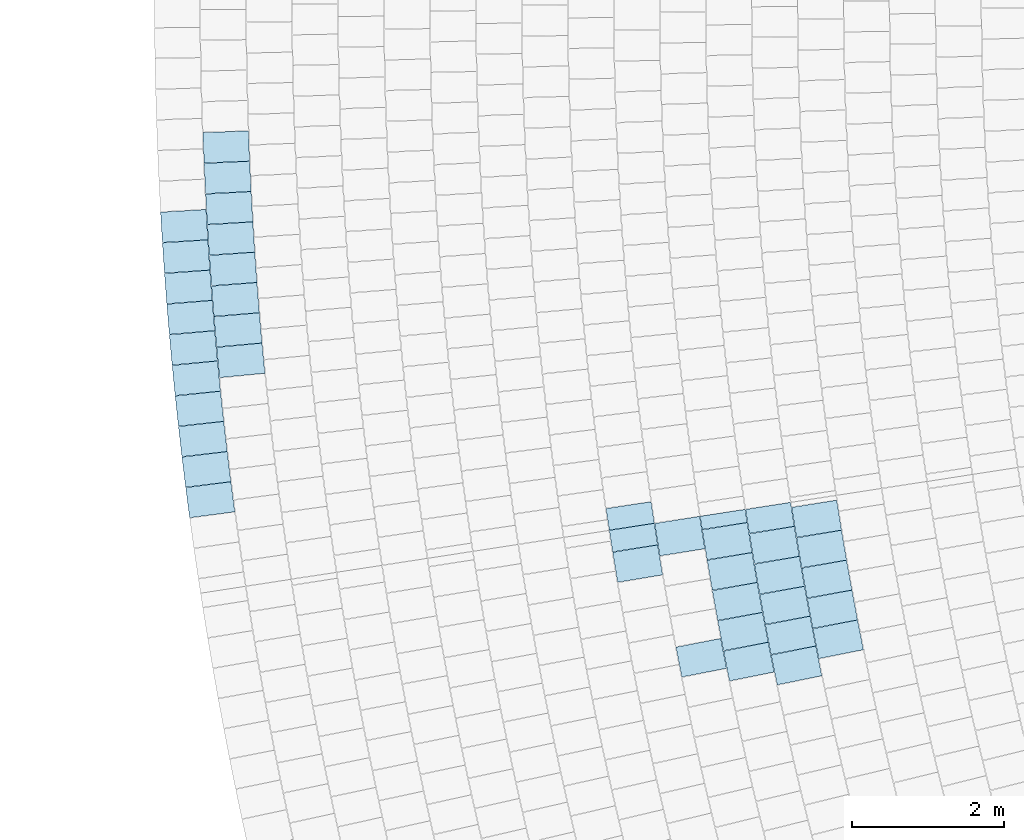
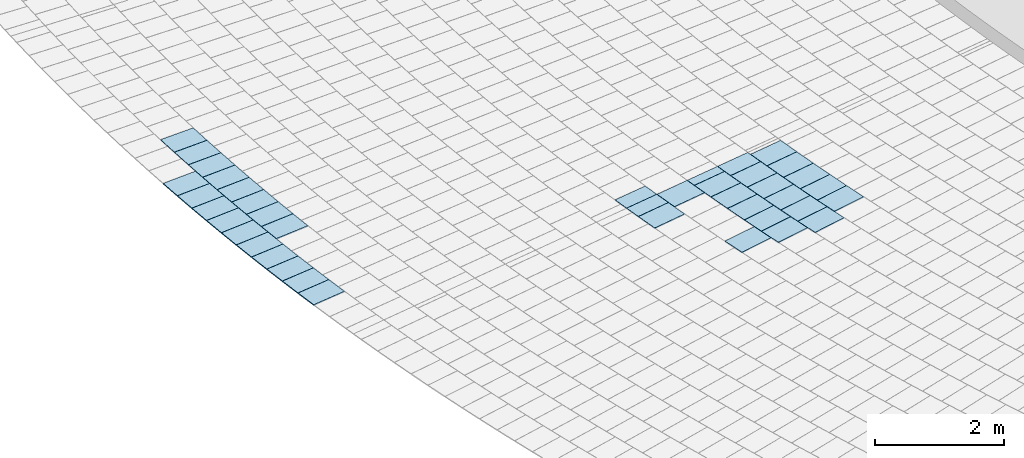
# One storey, part 77 of 438: 40 slabs.
"""IFC2X3 building model written with IfcOpenShell, lengths in millimetres."""

from ifc_helpers import new_model, entity, si_unit, converted_unit, derived_unit, direction, frame, frame_2d, origin, place, context, subcontext, project, spatial, polyline, rectangle, outline, extrude, material, layer, layer_set, layer_usage, type_object, element, save


model = new_model("IFC2X3")

# Units and contexts
model_context = context("Model", 3, precision=0.01, world=origin(), true_north=direction((6.123031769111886e-17, 1.0)))
body_context = subcontext(model_context, "Body", "Model", "MODEL_VIEW")
ifc_project = project(units=[si_unit("LENGTHUNIT", "METRE", prefix="MILLI"), si_unit("AREAUNIT", "SQUARE_METRE"), si_unit("VOLUMEUNIT", "CUBIC_METRE"), converted_unit("PLANEANGLEUNIT", "DEGREE", entity("IfcRatioMeasure", 0.017453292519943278), si_unit("PLANEANGLEUNIT", "RADIAN"), dimensions=[0, 0, 0, 0, 0, 0, 0]), si_unit("MASSUNIT", "GRAM", prefix="KILO"), derived_unit("MASSDENSITYUNIT", [(si_unit("MASSUNIT", "GRAM", prefix="KILO"), 1), (si_unit("LENGTHUNIT", "METRE"), -3)]), derived_unit("MOMENTOFINERTIAUNIT", [(si_unit("LENGTHUNIT", "METRE"), 4)]), si_unit("TIMEUNIT", "SECOND"), si_unit("FREQUENCYUNIT", "HERTZ"), si_unit("THERMODYNAMICTEMPERATUREUNIT", "DEGREE_CELSIUS"), derived_unit("THERMALTRANSMITTANCEUNIT", [(si_unit("MASSUNIT", "GRAM", prefix="KILO"), 1), (si_unit("THERMODYNAMICTEMPERATUREUNIT", "KELVIN"), -1), (si_unit("TIMEUNIT", "SECOND"), -3)]), derived_unit("THERMALCONDUCTANCEUNIT", [(si_unit("MASSUNIT", "GRAM", prefix="KILO"), 1), (si_unit("LENGTHUNIT", "METRE"), 1), (si_unit("THERMODYNAMICTEMPERATUREUNIT", "KELVIN"), -1), (si_unit("TIMEUNIT", "SECOND"), -3)]), derived_unit("VOLUMETRICFLOWRATEUNIT", [(si_unit("LENGTHUNIT", "METRE"), 3), (si_unit("TIMEUNIT", "SECOND"), -1)]), derived_unit("MASSFLOWRATEUNIT", [(si_unit("MASSUNIT", "GRAM", prefix="KILO"), 1), (si_unit("TIMEUNIT", "SECOND"), -1)]), derived_unit("ROTATIONALFREQUENCYUNIT", [(si_unit("TIMEUNIT", "SECOND"), -1)]), si_unit("ELECTRICCURRENTUNIT", "AMPERE"), si_unit("ELECTRICVOLTAGEUNIT", "VOLT"), si_unit("POWERUNIT", "WATT"), converted_unit("FORCEUNIT", "KIP", entity("IfcRatioMeasure", 2.088543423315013e-05), si_unit("FORCEUNIT", "NEWTON"), dimensions=[1, 1, -2, 0, 0, 0, 0]), si_unit("ILLUMINANCEUNIT", "LUX"), si_unit("LUMINOUSFLUXUNIT", "LUMEN"), si_unit("LUMINOUSINTENSITYUNIT", "CANDELA"), derived_unit("USERDEFINED", [(si_unit("MASSUNIT", "GRAM", prefix="KILO"), -1), (si_unit("LENGTHUNIT", "METRE"), -2), (si_unit("TIMEUNIT", "SECOND"), 3), (si_unit("LUMINOUSFLUXUNIT", "LUMEN"), 1)]), derived_unit("USERDEFINED", [(si_unit("MASSUNIT", "GRAM", prefix="KILO"), 1), (si_unit("LENGTHUNIT", "METRE"), 3), (si_unit("TIMEUNIT", "SECOND"), -3), (si_unit("ELECTRICCURRENTUNIT", "AMPERE"), -2)]), derived_unit("USERDEFINED", [(si_unit("LENGTHUNIT", "METRE"), 2), (si_unit("TIMEUNIT", "SECOND"), -2)]), derived_unit("SOUNDPOWERUNIT", [(si_unit("MASSUNIT", "GRAM", prefix="KILO"), 1), (si_unit("LENGTHUNIT", "METRE"), 2), (si_unit("TIMEUNIT", "SECOND"), -3)]), derived_unit("SOUNDPRESSUREUNIT", [(si_unit("MASSUNIT", "GRAM", prefix="KILO"), 1), (si_unit("LENGTHUNIT", "METRE"), -1), (si_unit("TIMEUNIT", "SECOND"), -2)]), derived_unit("LINEARVELOCITYUNIT", [(si_unit("LENGTHUNIT", "METRE"), 1), (si_unit("TIMEUNIT", "SECOND"), -1)]), si_unit("PRESSUREUNIT", "PASCAL"), derived_unit("USERDEFINED", [(si_unit("LENGTHUNIT", "METRE"), -2), (si_unit("MASSUNIT", "GRAM", prefix="KILO"), 1), (si_unit("TIMEUNIT", "SECOND"), -2)]), derived_unit("LINEARFORCEUNIT", [(si_unit("MASSUNIT", "GRAM", prefix="KILO"), 1), (si_unit("LENGTHUNIT", "METRE"), 1), (si_unit("TIMEUNIT", "SECOND"), -2), (si_unit("LENGTHUNIT", "METRE"), -1)]), derived_unit("PLANARFORCEUNIT", [(si_unit("MASSUNIT", "GRAM", prefix="KILO"), 1), (si_unit("LENGTHUNIT", "METRE"), 1), (si_unit("TIMEUNIT", "SECOND"), -2), (si_unit("LENGTHUNIT", "METRE"), -2)]), derived_unit("SPECIFICHEATCAPACITYUNIT", [(si_unit("LENGTHUNIT", "METRE"), 2), (si_unit("TIMEUNIT", "SECOND"), -2), (si_unit("THERMODYNAMICTEMPERATUREUNIT", "KELVIN"), -1)]), derived_unit("VAPORPERMEABILITYUNIT", [(si_unit("TIMEUNIT", "SECOND"), 1), (si_unit("LENGTHUNIT", "METRE"), -1)]), derived_unit("DYNAMICVISCOSITYUNIT", [(si_unit("MASSUNIT", "GRAM", prefix="KILO"), 1), (si_unit("LENGTHUNIT", "METRE"), -1), (si_unit("TIMEUNIT", "SECOND"), -1)]), derived_unit("THERMALEXPANSIONCOEFFICIENTUNIT", [(si_unit("THERMODYNAMICTEMPERATUREUNIT", "KELVIN"), -1)])], contexts=[model_context])

# Site, building, storey
site_placement = place(None, frame((0.0, 0.0, 0.0), z_axis=(0.0, 0.0, 1.0), x_axis=(0.8191520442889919, 0.5735764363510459, 0.0)))
site = spatial("IfcSite", under=ifc_project, at=site_placement, Name="Default", CompositionType="ELEMENT")
building_placement = place(site_placement, origin())
building = spatial("IfcBuilding", under=site, at=building_placement, CompositionType="ELEMENT")
storey_placement = place(building_placement, origin())
storey = spatial("IfcBuildingStorey", under=building, at=storey_placement, Name="PLAN", CompositionType="ELEMENT", Elevation=0.0)

# Slabs
ifc_material = material(Name="Paint-01")
ifc_layer = layer(ifc_material, 20.00000000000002)
ifc_layer_set = layer_set([ifc_layer], Name="Floor:Slab-179:1000")
ifc_layer_usage = layer_usage(ifc_layer_set, "AXIS3", "POSITIVE", 0.0)
slab_type = type_object("IfcSlabType", Name="Floor:Slab-179:1000", PredefinedType="FLOOR", material=ifc_layer_set)
slab_1_placement = place(storey_placement, origin())
element("IfcSlab", 1, at=slab_1_placement, inside=storey, type_object=slab_type, material=ifc_layer_usage, Name="Floor:Slab-179:1000", ObjectType="Floor:Slab-179:1000", PredefinedType="FLOOR", context=body_context, shape_type="SweptSolid", body=[
    extrude(outline(polyline([(-299.99999762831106, -200.00000294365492), (300.0, -200.00000294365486), (299.9999976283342, 200.0000029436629), (-300.0, 200.00000294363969), (-299.99999762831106, -200.00000294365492)])), frame((-80147.17707333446, -48590.86909837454, 520.0), z_axis=(0.0, 0.0, -1.0), x_axis=(0.8993916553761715, -0.43714374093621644, 0.0)), (0.0, 0.0, 1.0), 20.000000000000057),
])
slab_2_placement = place(storey_placement, origin())
element("IfcSlab", 2, at=slab_2_placement, inside=storey, type_object=slab_type, material=ifc_layer_usage, Name="Floor:Slab-179:1000", ObjectType="Floor:Slab-179:1000", PredefinedType="FLOOR", context=body_context, shape_type="SweptSolid", body=[
    extrude(outline(polyline([(-299.99999762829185, -200.0000029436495), (300.0, -200.0000029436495), (299.99999762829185, 200.0000029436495), (-300.0, 200.0000029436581), (-299.99999762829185, -200.0000029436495)])), frame((-80321.57655871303, -48953.87285234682, 520.0), z_axis=(0.0, 0.0, -1.0), x_axis=(0.9033302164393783, -0.42894582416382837, 0.0)), (0.0, 0.0, 1.0), 20.000000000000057),
])
slab_3_placement = place(storey_placement, origin())
element("IfcSlab", 3, at=slab_3_placement, inside=storey, type_object=slab_type, material=ifc_layer_usage, Name="Floor:Slab-179:1000", ObjectType="Floor:Slab-179:1000", PredefinedType="FLOOR", context=body_context, shape_type="SweptSolid", body=[
    extrude(outline(polyline([(-299.99999762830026, -200.0000029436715), (300.0, -200.0000029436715), (299.9999976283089, 200.0000029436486), (-300.0, 200.00000294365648), (-299.99999762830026, -200.0000029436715)])), frame((-80660.43533837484, -49684.56357710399, 520.0), z_axis=(0.0, 0.0, -1.0), x_axis=(0.9109828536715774, -0.41244422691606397, 0.0)), (0.0, 0.0, 1.0), 20.000000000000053),
])
slab_4_placement = place(storey_placement, origin())
element("IfcSlab", 4, at=slab_4_placement, inside=storey, type_object=slab_type, material=ifc_layer_usage, Name="Floor:Slab-179:1000", ObjectType="Floor:Slab-179:1000", PredefinedType="FLOOR", context=body_context, shape_type="SweptSolid", body=[
    extrude(outline(polyline([(-200.00000453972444, -299.99999869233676), (200.00000134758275, -299.99999869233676), (200.00000453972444, 299.99999869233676), (-200.00000134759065, 299.9999986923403), (-200.00000453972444, -299.99999869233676)])), frame((-80824.86660290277, -50052.19010653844, 520.0), z_axis=(0.0, 0.0, -1.0), x_axis=(-0.4041419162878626, -0.9146962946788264, 0.0)), (0.0, 0.0, 1.0), 20.000000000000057),
])
slab_5_placement = place(storey_placement, origin())
element("IfcSlab", 5, at=slab_5_placement, inside=storey, type_object=slab_type, material=ifc_layer_usage, Name="Floor:Slab-179:1000", ObjectType="Floor:Slab-179:1000", PredefinedType="FLOOR", context=body_context, shape_type="SweptSolid", body=[
    extrude(outline(polyline([(-299.99999762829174, -200.0000029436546), (300.0, -200.00000294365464), (299.999997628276, 200.00000294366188), (-300.0, 200.00000294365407), (-299.99999762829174, -200.0000029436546)])), frame((-80492.6673644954, -49318.44773090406, 520.0), z_axis=(0.0, 0.0, -1.0), x_axis=(0.9071940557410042, -0.42071242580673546, 0.0)), (0.0, 0.0, 1.0), 19.999999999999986),
])
slab_6_placement = place(storey_placement, origin())
element("IfcSlab", 6, at=slab_6_placement, inside=storey, type_object=slab_type, material=ifc_layer_usage, Name="Floor:Slab-179:1000", ObjectType="Floor:Slab-179:1000", PredefinedType="FLOOR", context=body_context, shape_type="SweptSolid", body=[
    extrude(outline(polyline([(-299.99999762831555, -200.00000294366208), (300.0, -200.00000294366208), (299.9999976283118, 200.00000294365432), (-300.0, 200.0000029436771), (-299.99999762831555, -200.00000294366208)])), frame((-80801.68309702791, -48555.12744006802, 520.0), z_axis=(0.0, 0.0, -1.0), x_axis=(0.9018506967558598, -0.4320478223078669, 0.0)), (0.0, 0.0, 1.0), 20.000000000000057),
])
slab_7_placement = place(storey_placement, origin())
element("IfcSlab", 7, at=slab_7_placement, inside=storey, type_object=slab_type, material=ifc_layer_usage, Name="Floor:Slab-179:1000", ObjectType="Floor:Slab-179:1000", PredefinedType="FLOOR", context=body_context, shape_type="SweptSolid", body=[
    extrude(outline(polyline([(-299.99999762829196, -200.0000029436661), (300.0, -200.0000029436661), (299.999997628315, 200.00000294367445), (-300.0, 200.00000294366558), (-299.99999762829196, -200.0000029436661)])), frame((-80974.03251129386, -48919.06817122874, 520.0), z_axis=(0.0, 0.0, -1.0), x_axis=(0.9056904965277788, -0.4239395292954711, 0.0)), (0.0, 0.0, 1.0), 20.000000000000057),
])
slab_8_placement = place(storey_placement, origin())
element("IfcSlab", 8, at=slab_8_placement, inside=storey, type_object=slab_type, material=ifc_layer_usage, Name="Floor:Slab-179:1000", ObjectType="Floor:Slab-179:1000", PredefinedType="FLOOR", context=body_context, shape_type="SweptSolid", body=[
    extrude(outline(polyline([(-299.99999762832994, -200.00000294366), (300.0, -200.00000294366), (299.9999976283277, 200.00000294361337), (-300.0, 200.00000294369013), (-299.99999762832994, -200.00000294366)])), frame((-81143.10991456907, -49284.54047947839, 520.0), z_axis=(0.0, 0.0, -1.0), x_axis=(0.9094573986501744, -0.41579711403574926, 0.0)), (0.0, 0.0, 1.0), 19.999999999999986),
])
slab_9_placement = place(storey_placement, origin())
element("IfcSlab", 9, at=slab_9_placement, inside=storey, type_object=slab_type, material=ifc_layer_usage, Name="Floor:Slab-179:1000", ObjectType="Floor:Slab-179:1000", PredefinedType="FLOOR", context=body_context, shape_type="SweptSolid", body=[
    extrude(outline(polyline([(-299.9999978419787, -159.83571271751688), (300.0, -159.8357127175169), (299.9999978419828, 159.83571271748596), (-300.0, 159.83571271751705), (-299.9999978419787, -159.83571271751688)])), frame((-80643.75270535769, -48228.81263376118, 520.0), z_axis=(0.0, 0.0, -1.0), x_axis=(0.8979383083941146, -0.4401213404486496, 0.0)), (0.0, 0.0, 1.0), 19.999999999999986),
])
slab_10_placement = place(storey_placement, origin())
element("IfcSlab", 10, at=slab_10_placement, inside=storey, type_object=slab_type, material=ifc_layer_usage, Name="Floor:Slab-179:1000", ObjectType="Floor:Slab-179:1000", PredefinedType="FLOOR", context=body_context, shape_type="SweptSolid", body=[
    extrude(outline(polyline([(-200.00000453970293, -299.99999869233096), (200.00000134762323, -299.99999869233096), (200.0000045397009, 299.9999986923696), (-200.0000013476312, 299.99999869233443), (-200.00000453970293, -299.99999869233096)])), frame((-81471.39451747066, -50019.96204109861, 520.0), z_axis=(0.0, 0.0, -1.0), x_axis=(-0.3994125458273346, -0.9167713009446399, 0.0)), (0.0, 0.0, 1.0), 20.000000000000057),
])
slab_11_placement = place(storey_placement, origin())
element("IfcSlab", 11, at=slab_11_placement, inside=storey, type_object=slab_type, material=ifc_layer_usage, Name="Floor:Slab-179:1000", ObjectType="Floor:Slab-179:1000", PredefinedType="FLOOR", context=body_context, shape_type="SweptSolid", body=[
    extrude(outline(polyline([(-200.00000453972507, -299.9999986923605), (200.000001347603, -299.99999869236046), (200.00000453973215, 299.9999986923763), (-200.00000134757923, 299.9999986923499), (-200.00000453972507, -299.9999986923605)])), frame((-81308.9016980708, -49651.51494850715, 520.0), z_axis=(0.0, 0.0, -1.0), x_axis=(-0.407621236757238, -0.9131510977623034, 0.0)), (0.0, 0.0, 1.0), 20.000000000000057),
])
slab_12_placement = place(storey_placement, origin())
element("IfcSlab", 12, at=slab_12_placement, inside=storey, type_object=slab_type, material=ifc_layer_usage, Name="Floor:Slab-179:1000", ObjectType="Floor:Slab-179:1000", PredefinedType="FLOOR", context=body_context, shape_type="SweptSolid", body=[
    extrude(outline(polyline([(-299.99999762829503, -200.0000029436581), (300.0, -200.0000029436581), (299.9999976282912, 200.0000029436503), (-300.0, 200.00000294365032), (-299.99999762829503, -200.0000029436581)])), frame((-81281.33621629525, -48156.62978566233, 520.0), z_axis=(0.0, 0.0, -1.0), x_axis=(0.9004005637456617, -0.43506186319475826, 0.0)), (0.0, 0.0, 1.0), 20.000000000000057),
])
slab_13_placement = place(storey_placement, origin())
element("IfcSlab", 13, at=slab_13_placement, inside=storey, type_object=slab_type, material=ifc_layer_usage, Name="Floor:Slab-179:1000", ObjectType="Floor:Slab-179:1000", PredefinedType="FLOOR", context=body_context, shape_type="SweptSolid", body=[
    extrude(outline(polyline([(-299.9999982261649, -87.62463906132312), (299.9999991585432, -87.62463906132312), (299.9999982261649, 87.62463906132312), (-299.9999991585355, 87.62463906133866), (-299.9999982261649, -87.62463906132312)])), frame((-81154.33900314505, -47895.6071059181, 520.0), z_axis=(0.0, 0.0, -1.0), x_axis=(0.8965144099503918, -0.44301457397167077, 0.0)), (0.0, 0.0, 1.0), 20.000000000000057),
])
slab_14_placement = place(storey_placement, origin())
element("IfcSlab", 14, at=slab_14_placement, inside=storey, type_object=slab_type, material=ifc_layer_usage, Name="Floor:Slab-179:1000", ObjectType="Floor:Slab-179:1000", PredefinedType="FLOOR", context=body_context, shape_type="SweptSolid", body=[
    extrude(outline(polyline([(-299.9999976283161, -200.00000294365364), (300.0, -200.0000029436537), (299.99999762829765, 200.00000294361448), (-300.0, 200.00000294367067), (-299.9999976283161, -200.00000294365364)])), frame((-81454.90828903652, -48519.94917670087, 520.0), z_axis=(0.0, 0.0, -1.0), x_axis=(0.9042161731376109, -0.4270750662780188, 0.0)), (0.0, 0.0, 1.0), 19.999999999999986),
])
slab_15_placement = place(storey_placement, origin())
element("IfcSlab", 15, at=slab_15_placement, inside=storey, type_object=slab_type, material=ifc_layer_usage, Name="Floor:Slab-179:1000", ObjectType="Floor:Slab-179:1000", PredefinedType="FLOOR", context=body_context, shape_type="SweptSolid", body=[
    extrude(outline(polyline([(-299.9999976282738, -200.000002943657), (300.0, -200.00000294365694), (299.9999976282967, 200.0000029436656), (-300.0, 200.0000029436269), (-299.9999976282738, -200.000002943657)])), frame((-81792.37109634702, -49251.12571396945, 520.0), z_axis=(0.0, 0.0, -1.0), x_axis=(0.9116345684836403, -0.4110017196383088, 0.0)), (0.0, 0.0, 1.0), 20.000000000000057),
])
slab_16_placement = place(storey_placement, origin())
element("IfcSlab", 16, at=slab_16_placement, inside=storey, type_object=slab_type, material=ifc_layer_usage, Name="Floor:Slab-179:1000", ObjectType="Floor:Slab-179:1000", PredefinedType="FLOOR", context=body_context, shape_type="SweptSolid", body=[
    extrude(outline(polyline([(-200.0000045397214, -299.9999986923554), (200.00000134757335, -299.99999869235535), (200.00000453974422, 299.9999986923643), (-200.00000134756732, 299.9999986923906), (-200.0000045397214, -299.9999986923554)])), frame((-81956.2353914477, -49618.92557412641, 520.0), z_axis=(0.0, 0.0, -1.0), x_axis=(-0.40291643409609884, -0.9152367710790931, 0.0)), (0.0, 0.0, 1.0), 20.000000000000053),
])
slab_17_placement = place(storey_placement, origin())
element("IfcSlab", 17, at=slab_17_placement, inside=storey, type_object=slab_type, material=ifc_layer_usage, Name="Floor:Slab-179:1000", ObjectType="Floor:Slab-179:1000", PredefinedType="FLOOR", context=body_context, shape_type="SweptSolid", body=[
    extrude(outline(polyline([(-215.737726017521, -299.9999986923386), (215.73772282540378, -299.9999986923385), (215.73772601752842, 299.9999986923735), (-215.73772282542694, 299.99999869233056), (-215.737726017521, -299.9999986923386)])), frame((-81753.66173906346, -47744.22363161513, 520.0), z_axis=(0.0, 0.0, -1.0), x_axis=(-0.437991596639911, -0.8989790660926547, 0.0)), (0.0, 0.0, 1.0), 20.000000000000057),
])
slab_18_placement = place(storey_placement, origin())
element("IfcSlab", 18, at=slab_18_placement, inside=storey, type_object=slab_type, material=ifc_layer_usage, Name="Floor:Slab-179:1000", ObjectType="Floor:Slab-179:1000", PredefinedType="FLOOR", context=body_context, shape_type="SweptSolid", body=[
    extrude(outline(polyline([(-200.0000045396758, -299.9999986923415), (200.00000134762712, -299.9999986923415), (200.000004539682, 299.99999869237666), (-200.00000134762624, 299.99999869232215), (-200.0000045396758, -299.9999986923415)])), frame((-82440.4953566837, -49218.17789218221, 520.0), z_axis=(0.0, 0.0, -1.0), x_axis=(-0.40632207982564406, -0.9137299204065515, 0.0)), (0.0, 0.0, 1.0), 20.000000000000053),
])
slab_19_placement = place(storey_placement, origin())
element("IfcSlab", 19, at=slab_19_placement, inside=storey, type_object=slab_type, material=ifc_layer_usage, Name="Floor:Slab-179:1000", ObjectType="Floor:Slab-179:1000", PredefinedType="FLOOR", context=body_context, shape_type="SweptSolid", body=[
    extrude(outline(polyline([(-143.68801425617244, -299.99999869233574), (143.68801266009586, -299.9999986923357), (143.68801585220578, 299.99999869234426), (-143.6880142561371, 299.9999986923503), (-143.68801425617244, -299.99999869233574)])), frame((-82264.18102377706, -47410.88941931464, 520.0), z_axis=(0.0, 0.0, -1.0), x_axis=(-0.4408404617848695, -0.8975854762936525, 0.0)), (0.0, 0.0, 1.0), 19.99999999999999),
])
slab_20_placement = place(storey_placement, origin())
element("IfcSlab", 20, at=slab_20_placement, inside=storey, type_object=slab_type, material=ifc_layer_usage, Name="Floor:Slab-179:1000", ObjectType="Floor:Slab-179:1000", PredefinedType="FLOOR", context=body_context, shape_type="SweptSolid", body=[
    extrude(outline(polyline([(-299.99999762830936, -200.00000294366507), (300.0, -200.0000029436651), (299.9999976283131, 200.00000294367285), (-300.0, 200.0000029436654), (-299.99999762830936, -200.00000294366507)])), frame((-82415.27187686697, -47722.45839020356, 520.0), z_axis=(0.0, 0.0, -1.0), x_axis=(0.9013524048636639, -0.4330864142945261, 0.0)), (0.0, 0.0, 1.0), 20.000000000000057),
])
slab_21_placement = place(storey_placement, origin())
element("IfcSlab", 21, at=slab_21_placement, inside=storey, type_object=slab_type, material=ifc_layer_usage, Name="Floor:Slab-179:1000", ObjectType="Floor:Slab-179:1000", PredefinedType="FLOOR", context=body_context, shape_type="SweptSolid", body=[
    extrude(outline(polyline([(-299.9999976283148, -200.0000029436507), (300.0, -200.0000029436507), (299.99999762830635, 200.0000029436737), (-300.0, 200.000002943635), (-299.9999976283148, -200.0000029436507)])), frame((-81625.2576978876, -48884.79068097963, 520.0), z_axis=(0.0, 0.0, -1.0), x_axis=(0.9079609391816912, -0.41905480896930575, 0.0)), (0.0, 0.0, 1.0), 20.000000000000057),
])
slab_22_placement = place(storey_placement, origin())
element("IfcSlab", 22, at=slab_22_placement, inside=storey, type_object=slab_type, material=ifc_layer_usage, Name="Floor:Slab-179:1000", ObjectType="Floor:Slab-179:1000", PredefinedType="FLOOR", context=body_context, shape_type="SweptSolid", body=[
    extrude(outline(polyline([(-300.0, -143.6880142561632), (299.9999979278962, -143.6880142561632), (300.0, 143.688012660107), (-299.99999792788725, 143.68801585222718), (-300.0, -143.6880142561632)])), frame((-82136.5087608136, -47152.17114245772, 520.0), z_axis=(0.0, 0.0, -1.0), x_axis=(0.8959188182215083, -0.4442178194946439, 0.0)), (0.0, 0.0, 1.0), 20.000000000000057),
])
slab_23_placement = place(storey_placement, origin())
element("IfcSlab", 23, at=slab_23_placement, inside=storey, type_object=slab_type, material=ifc_layer_usage, Name="Floor:Slab-179:1000", ObjectType="Floor:Slab-179:1000", PredefinedType="FLOOR", context=body_context, shape_type="SweptSolid", body=[
    extrude(outline(polyline([(-300.0, -200.00000294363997), (299.99999762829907, -200.0000029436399), (300.0, 200.00000294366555), (-299.99999762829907, 200.0000029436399), (-300.0, -200.00000294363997)])), frame((-84134.8312146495, -40803.21223893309, 520.0), z_axis=(0.0, 0.0, -1.0), x_axis=(0.8500721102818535, -0.5266663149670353, 0.0)), (0.0, 0.0, 1.0), 20.000000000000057),
])
slab_24_placement = place(storey_placement, origin())
element("IfcSlab", 24, at=slab_24_placement, inside=storey, type_object=slab_type, material=ifc_layer_usage, Name="Floor:Slab-179:1000", ObjectType="Floor:Slab-179:1000", PredefinedType="FLOOR", context=body_context, shape_type="SweptSolid", body=[
    extrude(outline(polyline([(-300.0, -200.00000294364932), (299.9999976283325, -200.00000294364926), (300.0, 200.00000294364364), (-299.99999762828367, 200.00000294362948), (-300.0, -200.00000294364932)])), frame((-84755.98002708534, -40657.80421363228, 520.0), z_axis=(0.0, 0.0, -1.0), x_axis=(0.8521213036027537, -0.5233443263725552, 0.0)), (0.0, 0.0, 1.0), 19.99999999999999),
])
slab_25_placement = place(storey_placement, origin())
element("IfcSlab", 25, at=slab_25_placement, inside=storey, type_object=slab_type, material=ifc_layer_usage, Name="Floor:Slab-179:1000", ObjectType="Floor:Slab-179:1000", PredefinedType="FLOOR", context=body_context, shape_type="SweptSolid", body=[
    extrude(outline(polyline([(-300.0, -200.00000294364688), (299.9999976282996, -200.00000294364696), (300.0, 200.00000294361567), (-299.9999976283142, 200.0000029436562), (-300.0, -200.00000294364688)])), frame((-83921.59955222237, -40462.024874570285, 520.0), z_axis=(0.0, 0.0, -1.0), x_axis=(0.8459349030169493, -0.5332861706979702, 0.0)), (0.0, 0.0, 1.0), 19.999999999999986),
])
slab_26_placement = place(storey_placement, origin())
element("IfcSlab", 26, at=slab_26_placement, inside=storey, type_object=slab_type, material=ifc_layer_usage, Name="Floor:Slab-179:1000", ObjectType="Floor:Slab-179:1000", PredefinedType="FLOOR", context=body_context, shape_type="SweptSolid", body=[
    extrude(outline(polyline([(-300.0, -200.00000294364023), (299.9999976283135, -200.00000294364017), (300.0, 200.00000294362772), (-299.9999976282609, 200.00000294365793), (-300.0, -200.00000294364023)])), frame((-83705.71098192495, -40122.512452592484, 520.0), z_axis=(0.0, 0.0, -1.0), x_axis=(0.8417461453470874, -0.5398735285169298, 0.0)), (0.0, 0.0, 1.0), 20.000000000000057),
])
slab_27_placement = place(storey_placement, origin())
element("IfcSlab", 27, at=slab_27_placement, inside=storey, type_object=slab_type, material=ifc_layer_usage, Name="Floor:Slab-179:1000", ObjectType="Floor:Slab-179:1000", PredefinedType="FLOOR", context=body_context, shape_type="SweptSolid", body=[
    extrude(outline(polyline([(-299.9999976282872, -200.0000029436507), (300.0, -200.0000029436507), (299.99999762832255, 200.0000029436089), (-300.0, 200.00000294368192), (-299.9999976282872, -200.0000029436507)])), frame((-84345.39297509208, -41146.053754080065, 520.0), z_axis=(0.0, 0.0, -1.0), x_axis=(0.8541575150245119, -0.5200143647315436, 0.0)), (0.0, 0.0, 1.0), 20.000000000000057),
])
slab_28_placement = place(storey_placement, origin())
element("IfcSlab", 28, at=slab_28_placement, inside=storey, type_object=slab_type, material=ifc_layer_usage, Name="Floor:Slab-179:1000", ObjectType="Floor:Slab-179:1000", PredefinedType="FLOOR", context=body_context, shape_type="SweptSolid", body=[
    extrude(outline(polyline([(-299.99999762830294, -200.0000029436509), (300.0, -200.0000029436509), (299.99999762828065, 200.0000029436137), (-300.0, 200.00000294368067), (-299.99999762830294, -200.0000029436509)])), frame((-84553.2720021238, -41490.52852758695, 520.0), z_axis=(0.0, 0.0, -1.0), x_axis=(0.858190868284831, -0.5133307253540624, 0.0)), (0.0, 0.0, 1.0), 19.999999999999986),
])
slab_29_placement = place(storey_placement, origin())
element("IfcSlab", 29, at=slab_29_placement, inside=storey, type_object=slab_type, material=ifc_layer_usage, Name="Floor:Slab-179:1000", ObjectType="Floor:Slab-179:1000", PredefinedType="FLOOR", context=body_context, shape_type="SweptSolid", body=[
    extrude(rectangle(XDim=599.9999906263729, YDim=400.00000138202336, at=frame_2d((-7.531752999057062e-12, 4.334310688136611e-12), x_axis=(1.0, 0.0))), frame((-84960.93483047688, -42184.239779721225, 520.0), z_axis=(0.0, 0.0, -1.0), x_axis=(0.8660254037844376, -0.5000000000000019, 0.0)), (0.0, 0.0, 1.0), 20.000000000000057),
])
slab_30_placement = place(storey_placement, origin())
element("IfcSlab", 30, at=slab_30_placement, inside=storey, type_object=slab_type, material=ifc_layer_usage, Name="Floor:Slab-179:1000", ObjectType="Floor:Slab-179:1000", PredefinedType="FLOOR", context=body_context, shape_type="SweptSolid", body=[
    extrude(outline(polyline([(-299.9999976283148, -200.0000029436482), (300.0, -200.00000294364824), (299.99999762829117, 200.00000294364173), (-300.0, 200.00000294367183), (-299.9999976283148, -200.0000029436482)])), frame((-85160.68682547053, -42533.541988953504, 520.0), z_axis=(0.0, 0.0, -1.0), x_axis=(0.8699761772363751, -0.4930937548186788, 0.0)), (0.0, 0.0, 1.0), 20.000000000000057),
])
slab_31_placement = place(storey_placement, origin())
element("IfcSlab", 31, at=slab_31_placement, inside=storey, type_object=slab_type, material=ifc_layer_usage, Name="Floor:Slab-179:1000", ObjectType="Floor:Slab-179:1000", PredefinedType="FLOOR", context=body_context, shape_type="SweptSolid", body=[
    extrude(outline(polyline([(-299.9999976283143, -200.00000294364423), (300.0, -200.00000294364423), (299.99999762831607, 200.00000294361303), (-300.0, 200.0000029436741), (-299.9999976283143, -200.00000294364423)])), frame((-84758.45562781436, -41836.61556752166, 520.0), z_axis=(0.0, 0.0, -1.0), x_axis=(0.8621719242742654, -0.5066158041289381, 0.0)), (0.0, 0.0, 1.0), 20.000000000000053),
])
slab_32_placement = place(storey_placement, origin())
element("IfcSlab", 32, at=slab_32_placement, inside=storey, type_object=slab_type, material=ifc_layer_usage, Name="Floor:Slab-179:1000", ObjectType="Floor:Slab-179:1000", PredefinedType="FLOOR", context=body_context, shape_type="SweptSolid", body=[
    extrude(outline(polyline([(-299.9999976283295, -200.00000294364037), (300.0, -200.0000029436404), (299.99999762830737, 200.0000029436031), (-300.0, 200.00000294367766), (-299.9999976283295, -200.00000294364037)])), frame((-85171.7695744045, -41346.66408673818, 520.0), z_axis=(0.0, 0.0, -1.0), x_axis=(0.8600950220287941, -0.5101338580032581, 0.0)), (0.0, 0.0, 1.0), 20.000000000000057),
])
slab_33_placement = place(storey_placement, origin())
element("IfcSlab", 33, at=slab_33_placement, inside=storey, type_object=slab_type, material=ifc_layer_usage, Name="Floor:Slab-179:1000", ObjectType="Floor:Slab-179:1000", PredefinedType="FLOOR", context=body_context, shape_type="SweptSolid", body=[
    extrude(outline(polyline([(-299.9999976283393, -200.0000029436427), (300.0, -200.00000294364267), (299.9999976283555, 200.00000294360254), (-300.0, 200.0000029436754), (-299.9999976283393, -200.0000029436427)])), frame((-84965.20349181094, -41001.43216435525, 520.0), z_axis=(0.0, 0.0, -1.0), x_axis=(0.8561336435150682, -0.5167544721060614, 0.0)), (0.0, 0.0, 1.0), 20.000000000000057),
])
slab_34_placement = place(storey_placement, origin())
element("IfcSlab", 34, at=slab_34_placement, inside=storey, type_object=slab_type, material=ifc_layer_usage, Name="Floor:Slab-179:1000", ObjectType="Floor:Slab-179:1000", PredefinedType="FLOOR", context=body_context, shape_type="SweptSolid", body=[
    extrude(outline(polyline([(-299.99999762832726, -200.00000294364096), (300.0, -200.00000294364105), (299.99999762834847, 200.00000294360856), (-300.0, 200.00000294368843), (-299.99999762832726, -200.00000294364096)])), frame((-85375.66597900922, -41693.47943083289, 520.0), z_axis=(0.0, 0.0, -1.0), x_axis=(0.8640052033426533, -0.5034828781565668, 0.0)), (0.0, 0.0, 1.0), 20.000000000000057),
])
slab_35_placement = place(storey_placement, origin())
element("IfcSlab", 35, at=slab_35_placement, inside=storey, type_object=slab_type, material=ifc_layer_usage, Name="Floor:Slab-179:1000", ObjectType="Floor:Slab-179:1000", PredefinedType="FLOOR", context=body_context, shape_type="SweptSolid", body=[
    extrude(outline(polyline([(-299.9999976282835, -200.00000294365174), (300.0, -200.0000029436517), (299.9999976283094, 200.00000294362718), (-300.0, 200.0000029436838), (-299.9999976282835, -200.00000294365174)])), frame((-85775.4013661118, -42391.77771432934, 520.0), z_axis=(0.0, 0.0, -1.0), x_axis=(0.8716710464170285, -0.4900914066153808, 0.0)), (0.0, 0.0, 1.0), 20.000000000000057),
])
slab_36_placement = place(storey_placement, origin())
element("IfcSlab", 36, at=slab_36_placement, inside=storey, type_object=slab_type, material=ifc_layer_usage, Name="Floor:Slab-179:1000", ObjectType="Floor:Slab-179:1000", PredefinedType="FLOOR", context=body_context, shape_type="SweptSolid", body=[
    extrude(outline(polyline([(-299.9999976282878, -200.00000294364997), (300.0, -200.00000294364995), (299.99999762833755, 200.00000294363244), (-300.0, 200.00000294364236), (-299.9999976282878, -200.00000294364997)])), frame((-85971.21655434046, -42743.2190874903, 520.0), z_axis=(0.0, 0.0, -1.0), x_axis=(0.8754262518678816, -0.48335171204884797, 0.0)), (0.0, 0.0, 1.0), 20.000000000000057),
])
slab_37_placement = place(storey_placement, origin())
element("IfcSlab", 37, at=slab_37_placement, inside=storey, type_object=slab_type, material=ifc_layer_usage, Name="Floor:Slab-179:1000", ObjectType="Floor:Slab-179:1000", PredefinedType="FLOOR", context=body_context, shape_type="SweptSolid", body=[
    extrude(outline(polyline([(-299.999997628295, -200.00000294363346), (300.0, -200.00000294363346), (299.9999976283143, 200.0000029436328), (-300.0, 200.0000029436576), (-299.999997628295, -200.00000294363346)])), frame((-86164.31447745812, -43096.16075235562, 520.0), z_axis=(0.0, 0.0, -1.0), x_axis=(0.8791293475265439, -0.47658324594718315, 0.0)), (0.0, 0.0, 1.0), 20.000000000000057),
])
slab_38_placement = place(storey_placement, origin())
element("IfcSlab", 38, at=slab_38_placement, inside=storey, type_object=slab_type, material=ifc_layer_usage, Name="Floor:Slab-179:1000", ObjectType="Floor:Slab-179:1000", PredefinedType="FLOOR", context=body_context, shape_type="SweptSolid", body=[
    extrude(outline(polyline([(-299.9999976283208, -200.0000029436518), (300.0, -200.00000294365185), (299.99999762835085, 200.00000294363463), (-300.0, 200.00000294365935), (-299.9999976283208, -200.0000029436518)])), frame((-85576.88056868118, -42041.857552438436, 520.0), z_axis=(0.0, 0.0, -1.0), x_axis=(0.8678639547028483, -0.49680192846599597, 0.0)), (0.0, 0.0, 1.0), 20.000000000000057),
])
slab_39_placement = place(storey_placement, origin())
element("IfcSlab", 39, at=slab_39_placement, inside=storey, type_object=slab_type, material=ifc_layer_usage, Name="Floor:Slab-179:1000", ObjectType="Floor:Slab-179:1000", PredefinedType="FLOOR", context=body_context, shape_type="SweptSolid", body=[
    extrude(outline(polyline([(-299.99999762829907, -200.0000029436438), (300.0, -200.00000294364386), (299.99999762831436, 200.0000029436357), (-300.0, 200.00000294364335), (-299.99999762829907, -200.0000029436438)])), frame((-86354.68364130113, -43450.58170005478, 520.0), z_axis=(0.0, 0.0, -1.0), x_axis=(0.8827801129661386, -0.46978641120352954, 0.0)), (0.0, 0.0, 1.0), 20.000000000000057),
])
slab_40_placement = place(storey_placement, origin())
element("IfcSlab", 40, at=slab_40_placement, inside=storey, type_object=slab_type, material=ifc_layer_usage, Name="Floor:Slab-179:1000", ObjectType="Floor:Slab-179:1000", PredefinedType="FLOOR", context=body_context, shape_type="SweptSolid", body=[
    extrude(outline(polyline([(-299.99999762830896, -200.00000294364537), (300.0, -200.00000294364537), (299.999997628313, 200.00000294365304), (-300.0, 200.00000294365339), (-299.99999762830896, -200.00000294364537)])), frame((-86542.3127141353, -43806.46083366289, 520.0), z_axis=(0.0, 0.0, -1.0), x_axis=(0.8863783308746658, -0.46296161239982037, 0.0)), (0.0, 0.0, 1.0), 20.000000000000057),
])

save(model, "model.ifc")
